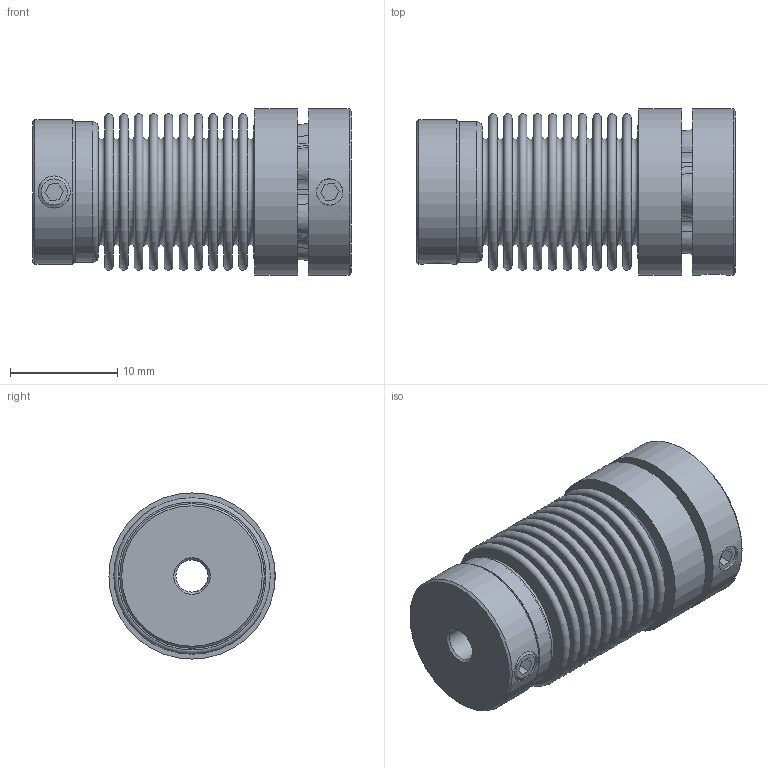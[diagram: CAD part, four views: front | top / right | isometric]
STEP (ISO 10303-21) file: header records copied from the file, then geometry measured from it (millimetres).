
FILE_DESCRIPTION( ( 'KBE1/14 - N7H8 - N14H7 - 98 Sh' ), '1' );
FILE_NAME( 'K:/Konstruktion/Fertigungszeichnungen/Metallbalgkupplung/KB1P/5-10/KB1P-5-30.stp', '14.12.2015', ( 'KBK-Antriebstechnik' ), ( 'KBK-Antriebstechnik' ), 'PSStep 16.0.42', 'Solid Edge St6', ' ' );
FILE_SCHEMA( ( 'AUTOMOTIVE_DESIGN { 1 0 10303 214 1 1 1 1 }' ) );
Length unit declared in the file: millimetre
Products named in the file (6): Assem1; Stecknabe KB1P-10; Balgaufnahme KB2P-10_für Step; MN10_Standard_2; BL5_Standard_0; Socket Set Screw Cup Point_DIN_DIN 916 - M3 x 4-N_8
Assembly tree (6 placements, depth 2):
  Assem1
    Stecknabe KB1P-10
    Balgaufnahme KB2P-10_für Step
    MN10_Standard_2
    BL5_Standard_0
    Socket Set Screw Cup Point_DIN_DIN 916 - M3 x 4-N_8  x2
Bounding box: 29.7 x 15.5 x 15.5 mm (x, y, z)
Volume: 2549.3 mm3; surface area: 6890.9 mm2
Topology: 6 solids, 6 shells, 208 faces, 424 edges, 271 vertices
Faces by surface type: cone 79, plane 69, torus 46, cylinder 14
Full cylindrical faces by diameter (mm): 2.459 x1, 3 x5, 12.9 x3, 13.1 x2, 13.5 x1, 15.5 x2
Entity records: 6652 total; most frequent: DIRECTION 940, CARTESIAN_POINT 927, ORIENTED_EDGE 630, AXIS2_PLACEMENT_3D 431, EDGE_LOOP 322, EDGE_CURVE 315, VERTEX_POINT 264, FACE_OUTER_BOUND 255
